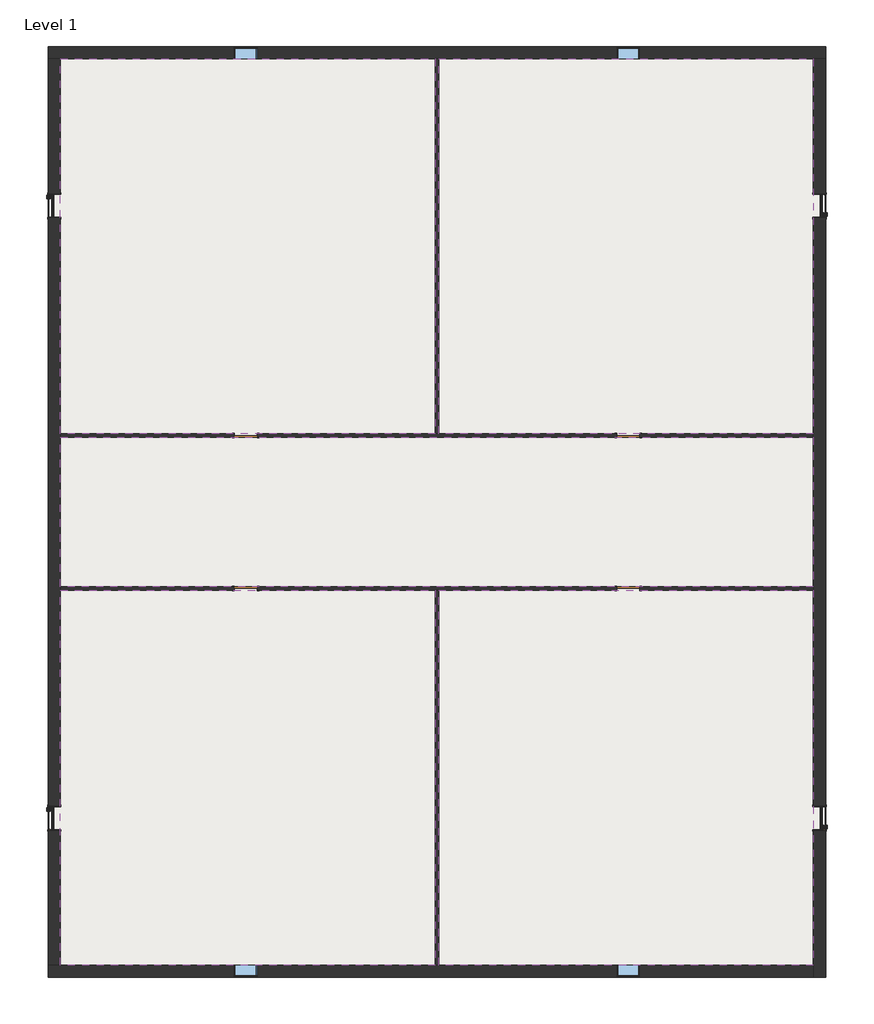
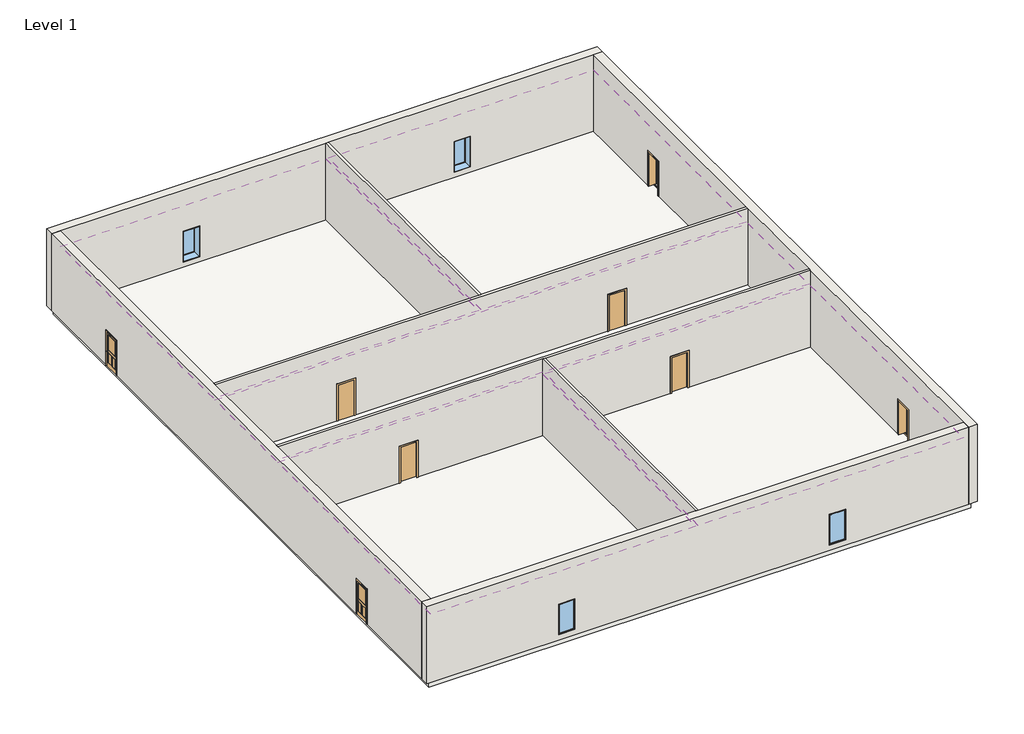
# One storey: 8 doors, 8 walls, 5 coverings, 4 windows, 1 slab.
"""IFC4 building model written with IfcOpenShell, lengths in millimetres."""

from ifc_helpers import new_model, si_unit, frame, origin, origin_with_axes, place, context, project, spatial, polyline, outline, extrude, faceted_brep, transform, mapped, element, save
from components import door_9a8c5ecc, door_c6edcd30, window_ebccf9a6

model = new_model("IFC4")

# Units and contexts
model_context = context("Model", 3, world=origin())
ifc_project = project(units=[si_unit("LENGTHUNIT", "METRE", prefix="MILLI")], contexts=[model_context])

# Site, building, storey
site = spatial("IfcSite", under=ifc_project)
building = spatial("IfcBuilding", under=site)
storey = spatial("IfcBuildingStorey", under=building, Name="Level 1", Elevation=0.0)

# Coverings
placement = place(None, origin())
element("IfcCovering", 1, ObjectType="GWB on Mtl. Stud", at=placement, inside=storey, context=model_context, shape_type="SweptSolid", body=[
    extrude(outline(polyline([(-19.9474435, 17225.7425957), (-19.9474435, 2303.2425957), (-14942.4474435, 2303.2425957), (-14942.4474435, 17225.7425957), (-19.9474435, 17225.7425957)])), frame((0.0, 0.0, 3657.6), z_axis=(0.0, 0.0, 1.0), x_axis=(1.0, 0.0, 0.0)), (0.0, 0.0, 1.0), 107.95),
])
element("IfcCovering", 2, ObjectType="GWB on Mtl. Stud", at=placement, inside=storey, context=model_context, shape_type="SweptSolid", body=[
    extrude(outline(polyline([(15042.2525565, 17225.7425957), (15042.2525565, 2303.2425957), (119.7525565, 2303.2425957), (119.7525565, 17225.7425957), (15042.2525565, 17225.7425957)])), frame((0.0, 0.0, 3657.6), z_axis=(0.0, 0.0, 1.0), x_axis=(1.0, 0.0, 0.0)), (0.0, 0.0, 1.0), 107.95),
])
element("IfcCovering", 3, ObjectType="GWB on Mtl. Stud", at=placement, inside=storey, context=model_context, shape_type="SweptSolid", body=[
    extrude(outline(polyline([(15042.2525565, 2163.5425957), (15042.2525565, -3792.7574043), (-14942.4474435, -3792.7574043), (-14942.4474435, 2163.5425957), (15042.2525565, 2163.5425957)])), frame((0.0, 0.0, 3657.6), z_axis=(0.0, 0.0, 1.0), x_axis=(1.0, 0.0, 0.0)), (0.0, 0.0, 1.0), 107.95),
])
element("IfcCovering", 4, ObjectType="GWB on Mtl. Stud", at=placement, inside=storey, context=model_context, shape_type="SweptSolid", body=[
    extrude(outline(polyline([(-19.9474435, -3932.4574043), (-19.9474435, -18854.9574043), (-14942.4474435, -18854.9574043), (-14942.4474435, -3932.4574043), (-19.9474435, -3932.4574043)])), frame((0.0, 0.0, 3657.6), z_axis=(0.0, 0.0, 1.0), x_axis=(1.0, 0.0, 0.0)), (0.0, 0.0, 1.0), 107.95),
])
element("IfcCovering", 5, ObjectType="GWB on Mtl. Stud", at=placement, inside=storey, context=model_context, shape_type="SweptSolid", body=[
    extrude(outline(polyline([(15042.2525565, -3932.4574043), (15042.2525565, -18854.9574043), (119.7525565, -18854.9574043), (119.7525565, -3932.4574043), (15042.2525565, -3932.4574043)])), frame((0.0, 0.0, 3657.6), z_axis=(0.0, 0.0, 1.0), x_axis=(1.0, 0.0, 0.0)), (0.0, 0.0, 1.0), 107.95),
])

# Doors
door_shape = door_9a8c5ecc(model_context)
element("IfcDoor", 6, ObjectType="Door-Exterior-Single-Entry-Half Flat Glass-Wood_Clad : 36\" x 80\"", at=placement, inside=storey, context=model_context, shape_type="MappedRepresentation", body=[
    mapped(door_shape, transform((15293.0775565, -13006.6074043, 0.0), x_axis=(0.0, -1.0, 0.0), y_axis=(1.0, 0.0, 0.0), z_axis=(0.0, 0.0, 1.0))),
])
element("IfcDoor", 7, ObjectType="Door-Exterior-Single-Entry-Half Flat Glass-Wood_Clad : 36\" x 80\"", at=placement, inside=storey, context=model_context, shape_type="MappedRepresentation", body=[
    mapped(door_shape, transform((-15193.2724435, -13006.6074043, 0.0), x_axis=(0.0, 1.0, 0.0), y_axis=(-1.0, 0.0, 0.0), z_axis=(0.0, 0.0, 1.0))),
])
element("IfcDoor", 8, ObjectType="Door-Exterior-Single-Entry-Half Flat Glass-Wood_Clad : 36\" x 80\"", at=placement, inside=storey, context=model_context, shape_type="MappedRepresentation", body=[
    mapped(door_shape, transform((15293.0775565, 11377.3925957, 0.0), x_axis=(0.0, -1.0, 0.0), y_axis=(1.0, 0.0, 0.0), z_axis=(0.0, 0.0, 1.0))),
])
element("IfcDoor", 9, ObjectType="Door-Exterior-Single-Entry-Half Flat Glass-Wood_Clad : 36\" x 80\"", at=placement, inside=storey, context=model_context, shape_type="MappedRepresentation", body=[
    mapped(door_shape, transform((-15193.2724435, 11377.3925957, 0.0), x_axis=(0.0, 1.0, 0.0), y_axis=(-1.0, 0.0, 0.0), z_axis=(0.0, 0.0, 1.0))),
])
door_2_shape = door_c6edcd30(model_context)
element("IfcDoor", 10, ObjectType="Single-Flush : 36\" x 84\"", at=placement, inside=storey, context=model_context, shape_type="MappedRepresentation", body=[
    mapped(door_2_shape, transform((-7570.0974435, 2233.3925957, 0.0), x_axis=(-1.0, 0.0, 0.0), y_axis=(0.0, -1.0, 0.0), z_axis=(0.0, 0.0, 1.0))),
])
element("IfcDoor", 11, ObjectType="Single-Flush : 36\" x 84\"", at=placement, inside=storey, context=model_context, shape_type="MappedRepresentation", body=[
    mapped(door_2_shape, transform((7669.9025565, 2233.3925957, 0.0), x_axis=(-1.0, 0.0, 0.0), y_axis=(0.0, -1.0, 0.0), z_axis=(0.0, 0.0, 1.0))),
])
element("IfcDoor", 12, ObjectType="Single-Flush : 36\" x 84\"", at=placement, inside=storey, context=model_context, shape_type="MappedRepresentation", body=[
    mapped(door_2_shape, transform((-7570.0974435, -3862.6074043, 0.0), x_axis=(1.0, 0.0, 0.0), y_axis=(0.0, 1.0, 0.0), z_axis=(0.0, 0.0, 1.0))),
])
element("IfcDoor", 13, ObjectType="Single-Flush : 36\" x 84\"", at=placement, inside=storey, context=model_context, shape_type="MappedRepresentation", body=[
    mapped(door_2_shape, transform((7669.9025565, -3862.6074043, 0.0), x_axis=(1.0, 0.0, 0.0), y_axis=(0.0, 1.0, 0.0), z_axis=(0.0, 0.0, 1.0))),
])

# Slab
element("IfcSlab", 14, ObjectType="Steel Bar Joist 14\" - VCT on Concrete", at=placement, inside=storey, context=model_context, shape_type="SweptSolid", body=[
    extrude(outline(polyline([(15293.0775565, 17476.5675957), (15293.0775565, -19105.7824043), (-15193.2724435, -19105.7824043), (-15193.2724435, 17476.5675957), (15293.0775565, 17476.5675957)])), frame((0.0, 0.0, -441.325), z_axis=(0.0, 0.0, 1.0), x_axis=(1.0, 0.0, 0.0)), (0.0, 0.0, 1.0), 441.325),
])

# Walls
element("IfcWall", 15, ObjectType="Exterior - Brick on CMU", at=placement, inside=storey, context=model_context, shape_type="Brep", body=[
    faceted_brep([(-15437.7474435, 17225.7425957, 0.0), (-14942.4474435, 17225.7425957, 0.0), (-19.9474435, 17225.7425957, 0.0), (119.7525565, 17225.7425957, 0.0), (15042.2525565, 17225.7425957, 0.0), (15537.5525565, 17225.7425957, 0.0), (15537.5525565, 17225.7425957, 4572.0), (15042.2525565, 17225.7425957, 4572.0), (119.7525565, 17225.7425957, 4572.0), (-19.9474435, 17225.7425957, 4572.0), (-14942.4474435, 17225.7425957, 4572.0), (-15437.7474435, 17225.7425957, 4572.0), (-7112.8974435, 17225.7425957, 2133.6), (-7112.8974435, 17225.7425957, 304.8), (-8027.2974435, 17225.7425957, 304.8), (-8027.2974435, 17225.7425957, 2133.6), (8127.1025565, 17225.7425957, 2133.6), (8127.1025565, 17225.7425957, 304.8), (7212.7025565, 17225.7425957, 304.8), (7212.7025565, 17225.7425957, 2133.6), (-15437.7474435, 17721.0425957, 0.0), (-15437.7474435, 17721.0425957, 4572.0), (15537.5525565, 17721.0425957, 4572.0), (15537.5525565, 17721.0425957, 0.0), (-7112.8974435, 17721.0425957, 2133.6), (-8027.2974435, 17721.0425957, 2133.6), (-8027.2974435, 17721.0425957, 304.8), (-7112.8974435, 17721.0425957, 304.8), (8127.1025565, 17721.0425957, 2133.6), (7212.7025565, 17721.0425957, 2133.6), (7212.7025565, 17721.0425957, 304.8), (8127.1025565, 17721.0425957, 304.8)], [[[0, 1, 2, 3, 4, 5, 6, 7, 8, 9, 10, 11], [12, 13, 14, 15], [16, 17, 18, 19]], [[20, 21, 22, 23], [24, 25, 26, 27], [28, 29, 30, 31]], [[5, 4, 3, 2, 1, 0, 20, 23]], [[6, 5, 23, 22]], [[0, 11, 21, 20]], [[13, 12, 24, 27]], [[14, 13, 27, 26]], [[15, 14, 26, 25]], [[12, 15, 25, 24]], [[17, 16, 28, 31]], [[18, 17, 31, 30]], [[19, 18, 30, 29]], [[16, 19, 29, 28]], [[11, 10, 9, 8, 7, 6, 22, 21]]]),
])
element("IfcWall", 16, ObjectType="Exterior - Brick on CMU", at=placement, inside=storey, context=model_context, shape_type="Brep", body=[
    faceted_brep([(15042.2525565, 17225.7425957, 4572.0), (15042.2525565, 17225.7425957, 0.0), (15042.2525565, 11859.9925957, 0.0), (15042.2525565, 11859.9925957, 2057.4), (15042.2525565, 10894.7925957, 2057.4), (15042.2525565, 10894.7925957, 0.0), (15042.2525565, 2303.2425957, 0.0), (15042.2525565, 2163.5425957, 0.0), (15042.2525565, -3792.7574043, 0.0), (15042.2525565, -3932.4574043, 0.0), (15042.2525565, -12524.0074043, 0.0), (15042.2525565, -12524.0074043, 2057.4), (15042.2525565, -13489.2074043, 2057.4), (15042.2525565, -13489.2074043, 0.0), (15042.2525565, -18854.9574043, 0.0), (15042.2525565, -19350.2574043, 0.0), (15042.2525565, -19350.2574043, 4572.0), (15042.2525565, -18854.9574043, 4572.0), (15042.2525565, -3932.4574043, 4572.0), (15042.2525565, -3792.7574043, 4572.0), (15042.2525565, 2163.5425957, 4572.0), (15042.2525565, 2303.2425957, 4572.0), (15537.5525565, 17225.7425957, 0.0), (15537.5525565, 17225.7425957, 4572.0), (15537.5525565, -19350.2574043, 4572.0), (15537.5525565, -19350.2574043, 0.0), (15537.5525565, -13489.2074043, 0.0), (15537.5525565, -13489.2074043, 2057.4), (15537.5525565, -12524.0074043, 2057.4), (15537.5525565, -12524.0074043, 0.0), (15537.5525565, 10894.7925957, 0.0), (15537.5525565, 10894.7925957, 2057.4), (15537.5525565, 11859.9925957, 2057.4), (15537.5525565, 11859.9925957, 0.0)], [[[0, 1, 2, 3, 4, 5, 6, 7, 8, 9, 10, 11, 12, 13, 14, 15, 16, 17, 18, 19, 20, 21]], [[22, 23, 24, 25, 26, 27, 28, 29, 30, 31, 32, 33]], [[1, 22, 33, 2]], [[25, 15, 14, 13, 26]], [[29, 10, 9, 8, 7, 6, 5, 30]], [[1, 0, 23, 22]], [[16, 15, 25, 24]], [[12, 27, 26, 13]], [[27, 12, 11, 28]], [[28, 11, 10, 29]], [[4, 31, 30, 5]], [[31, 4, 3, 32]], [[32, 3, 2, 33]], [[0, 21, 20, 19, 18, 17, 16, 24, 23]]]),
])
element("IfcWall", 17, ObjectType="Exterior - Brick on CMU", at=placement, inside=storey, context=model_context, shape_type="Brep", body=[
    faceted_brep([(15042.2525565, -18854.9574043, 0.0), (119.7525565, -18854.9574043, 0.0), (-19.9474435, -18854.9574043, 0.0), (-14942.4474435, -18854.9574043, 0.0), (-15437.7474435, -18854.9574043, 0.0), (-15437.7474435, -18854.9574043, 4572.0), (-14942.4474435, -18854.9574043, 4572.0), (-19.9474435, -18854.9574043, 4572.0), (119.7525565, -18854.9574043, 4572.0), (15042.2525565, -18854.9574043, 4572.0), (-8027.2974435, -18854.9574043, 2133.6), (-8027.2974435, -18854.9574043, 304.8), (-7112.8974435, -18854.9574043, 304.8), (-7112.8974435, -18854.9574043, 2133.6), (7212.7025565, -18854.9574043, 2133.6), (7212.7025565, -18854.9574043, 304.8), (8127.1025565, -18854.9574043, 304.8), (8127.1025565, -18854.9574043, 2133.6), (15042.2525565, -19350.2574043, 0.0), (15042.2525565, -19350.2574043, 4572.0), (-15437.7474435, -19350.2574043, 4572.0), (-15437.7474435, -19350.2574043, 0.0), (-8027.2974435, -19350.2574043, 2133.6), (-7112.8974435, -19350.2574043, 2133.6), (-7112.8974435, -19350.2574043, 304.8), (-8027.2974435, -19350.2574043, 304.8), (7212.7025565, -19350.2574043, 2133.6), (8127.1025565, -19350.2574043, 2133.6), (8127.1025565, -19350.2574043, 304.8), (7212.7025565, -19350.2574043, 304.8)], [[[0, 1, 2, 3, 4, 5, 6, 7, 8, 9], [10, 11, 12, 13], [14, 15, 16, 17]], [[18, 19, 20, 21], [22, 23, 24, 25], [26, 27, 28, 29]], [[4, 3, 2, 1, 0, 18, 21]], [[0, 9, 19, 18]], [[5, 4, 21, 20]], [[11, 10, 22, 25]], [[12, 11, 25, 24]], [[13, 12, 24, 23]], [[10, 13, 23, 22]], [[15, 14, 26, 29]], [[16, 15, 29, 28]], [[17, 16, 28, 27]], [[14, 17, 27, 26]], [[9, 8, 7, 6, 5, 20, 19]]]),
])
element("IfcWall", 18, ObjectType="Exterior - Brick on CMU", at=placement, inside=storey, context=model_context, shape_type="Brep", body=[
    faceted_brep([(-14942.4474435, 17225.7425957, 0.0), (-14942.4474435, 17225.7425957, 4572.0), (-14942.4474435, 2303.2425957, 4572.0), (-14942.4474435, 2163.5425957, 4572.0), (-14942.4474435, -3792.7574043, 4572.0), (-14942.4474435, -3932.4574043, 4572.0), (-14942.4474435, -18854.9574043, 4572.0), (-14942.4474435, -18854.9574043, 0.0), (-14942.4474435, -13489.2074043, 0.0), (-14942.4474435, -13489.2074043, 2057.4), (-14942.4474435, -12524.0074043, 2057.4), (-14942.4474435, -12524.0074043, 0.0), (-14942.4474435, -3932.4574043, 0.0), (-14942.4474435, -3792.7574043, 0.0), (-14942.4474435, 2163.5425957, 0.0), (-14942.4474435, 2303.2425957, 0.0), (-14942.4474435, 10894.7925957, 0.0), (-14942.4474435, 10894.7925957, 2057.4), (-14942.4474435, 11859.9925957, 2057.4), (-14942.4474435, 11859.9925957, 0.0), (-15437.7474435, 17225.7425957, 4572.0), (-15437.7474435, 17225.7425957, 0.0), (-15437.7474435, 11859.9925957, 0.0), (-15437.7474435, 11859.9925957, 2057.4), (-15437.7474435, 10894.7925957, 2057.4), (-15437.7474435, 10894.7925957, 0.0), (-15437.7474435, -12524.0074043, 0.0), (-15437.7474435, -12524.0074043, 2057.4), (-15437.7474435, -13489.2074043, 2057.4), (-15437.7474435, -13489.2074043, 0.0), (-15437.7474435, -18854.9574043, 0.0), (-15437.7474435, -18854.9574043, 4572.0)], [[[0, 1, 2, 3, 4, 5, 6, 7, 8, 9, 10, 11, 12, 13, 14, 15, 16, 17, 18, 19]], [[20, 21, 22, 23, 24, 25, 26, 27, 28, 29, 30, 31]], [[7, 30, 29, 8]], [[21, 0, 19, 22]], [[11, 26, 25, 16, 15, 14, 13, 12]], [[1, 0, 21, 20]], [[7, 6, 31, 30]], [[10, 27, 26, 11]], [[27, 10, 9, 28]], [[28, 9, 8, 29]], [[18, 23, 22, 19]], [[23, 18, 17, 24]], [[24, 17, 16, 25]], [[6, 5, 4, 3, 2, 1, 20, 31]]]),
])
element("IfcWall", 19, ObjectType="Interior - 5 1/2\" Partition (1-hr)", at=placement, inside=storey, context=model_context, shape_type="Brep", body=[
    faceted_brep([(8127.1025565, -3932.4574043, 2133.6), (8127.1025565, -3932.4574043, 0.0), (15042.2525565, -3932.4574043, 0.0), (15042.2525565, -3932.4574043, 4572.0), (119.7525565, -3932.4574043, 4572.0), (-19.9474435, -3932.4574043, 4572.0), (-14942.4474435, -3932.4574043, 4572.0), (-14942.4474435, -3932.4574043, 0.0), (-8027.2974435, -3932.4574043, 0.0), (-8027.2974435, -3932.4574043, 2133.6), (-7112.8974435, -3932.4574043, 2133.6), (-7112.8974435, -3932.4574043, 0.0), (-19.9474435, -3932.4574043, 0.0), (119.7525565, -3932.4574043, 0.0), (7212.7025565, -3932.4574043, 0.0), (7212.7025565, -3932.4574043, 2133.6), (15042.2525565, -3792.7574043, 0.0), (8127.1025565, -3792.7574043, 0.0), (8127.1025565, -3792.7574043, 2133.6), (7212.7025565, -3792.7574043, 2133.6), (7212.7025565, -3792.7574043, 0.0), (-7112.8974435, -3792.7574043, 0.0), (-7112.8974435, -3792.7574043, 2133.6), (-8027.2974435, -3792.7574043, 2133.6), (-8027.2974435, -3792.7574043, 0.0), (-14942.4474435, -3792.7574043, 0.0), (-14942.4474435, -3792.7574043, 4572.0), (15042.2525565, -3792.7574043, 4572.0)], [[[0, 1, 2, 3, 4, 5, 6, 7, 8, 9, 10, 11, 12, 13, 14, 15]], [[16, 17, 18, 19, 20, 21, 22, 23, 24, 25, 26, 27]], [[8, 7, 25, 24]], [[2, 1, 17, 16]], [[14, 13, 12, 11, 21, 20]], [[3, 2, 16, 27]], [[7, 6, 26, 25]], [[22, 21, 11, 10]], [[23, 22, 10, 9]], [[24, 23, 9, 8]], [[18, 17, 1, 0]], [[19, 18, 0, 15]], [[20, 19, 15, 14]], [[6, 5, 4, 3, 27, 26]]]),
])
element("IfcWall", 20, ObjectType="Interior - 5 1/2\" Partition (1-hr)", at=placement, inside=storey, context=model_context, shape_type="SweptSolid", body=[
    extrude(outline(polyline([(-19.9474435, -18854.9574043), (-19.9474435, -3932.4574043), (119.7525565, -3932.4574043), (119.7525565, -18854.9574043), (-19.9474435, -18854.9574043)])), origin_with_axes(), (0.0, 0.0, 1.0), 4572.0),
])
element("IfcWall", 21, ObjectType="Interior - 5 1/2\" Partition (1-hr)", at=placement, inside=storey, context=model_context, shape_type="Brep", body=[
    faceted_brep([(-7112.8974435, 2163.5425957, 0.0), (7212.7025565, 2163.5425957, 0.0), (7212.7025565, 2163.5425957, 2133.6), (8127.1025565, 2163.5425957, 2133.6), (8127.1025565, 2163.5425957, 0.0), (15042.2525565, 2163.5425957, 0.0), (15042.2525565, 2163.5425957, 4572.0), (-14942.4474435, 2163.5425957, 4572.0), (-14942.4474435, 2163.5425957, 0.0), (-8027.2974435, 2163.5425957, 0.0), (-8027.2974435, 2163.5425957, 2133.6), (-7112.8974435, 2163.5425957, 2133.6), (7212.7025565, 2303.2425957, 2133.6), (7212.7025565, 2303.2425957, 0.0), (119.7525565, 2303.2425957, 0.0), (-19.9474435, 2303.2425957, 0.0), (-7112.8974435, 2303.2425957, 0.0), (-7112.8974435, 2303.2425957, 2133.6), (-8027.2974435, 2303.2425957, 2133.6), (-8027.2974435, 2303.2425957, 0.0), (-14942.4474435, 2303.2425957, 0.0), (-14942.4474435, 2303.2425957, 4572.0), (-19.9474435, 2303.2425957, 4572.0), (119.7525565, 2303.2425957, 4572.0), (15042.2525565, 2303.2425957, 4572.0), (15042.2525565, 2303.2425957, 0.0), (8127.1025565, 2303.2425957, 0.0), (8127.1025565, 2303.2425957, 2133.6)], [[[0, 1, 2, 3, 4, 5, 6, 7, 8, 9, 10, 11]], [[12, 13, 14, 15, 16, 17, 18, 19, 20, 21, 22, 23, 24, 25, 26, 27]], [[20, 19, 9, 8]], [[26, 25, 5, 4]], [[16, 15, 14, 13, 1, 0]], [[6, 5, 25, 24]], [[8, 7, 21, 20]], [[10, 9, 19, 18]], [[11, 10, 18, 17]], [[0, 11, 17, 16]], [[2, 1, 13, 12]], [[3, 2, 12, 27]], [[4, 3, 27, 26]], [[7, 6, 24, 23, 22, 21]]]),
])
element("IfcWall", 22, ObjectType="Interior - 5 1/2\" Partition (1-hr)", at=placement, inside=storey, context=model_context, shape_type="SweptSolid", body=[
    extrude(outline(polyline([(119.7525565, 17225.7425957), (119.7525565, 2303.2425957), (-19.9474435, 2303.2425957), (-19.9474435, 17225.7425957), (119.7525565, 17225.7425957)])), origin_with_axes(), (0.0, 0.0, 1.0), 4572.0),
])

# Windows
window_shape = window_ebccf9a6(model_context)
element("IfcWindow", 23, ObjectType="Fixed : 36\" x 72\"", at=placement, inside=storey, context=model_context, shape_type="MappedRepresentation", body=[
    mapped(window_shape, transform((-7608.1974435, -19102.6074043, 0.0), x_axis=(-1.0, 0.0, 0.0), y_axis=(0.0, -1.0, 0.0), z_axis=(0.0, 0.0, 1.0))),
])
element("IfcWindow", 24, ObjectType="Fixed : 36\" x 72\"", at=placement, inside=storey, context=model_context, shape_type="MappedRepresentation", body=[
    mapped(window_shape, transform((7631.8025565, -19102.6074043, 0.0), x_axis=(-1.0, 0.0, 0.0), y_axis=(0.0, -1.0, 0.0), z_axis=(0.0, 0.0, 1.0))),
])
element("IfcWindow", 25, ObjectType="Fixed : 36\" x 72\"", at=placement, inside=storey, context=model_context, shape_type="MappedRepresentation", body=[
    mapped(window_shape, transform((-7531.9974435, 17473.3925957, 0.0), x_axis=(1.0, 0.0, 0.0), y_axis=(0.0, 1.0, 0.0), z_axis=(0.0, 0.0, 1.0))),
])
element("IfcWindow", 26, ObjectType="Fixed : 36\" x 72\"", at=placement, inside=storey, context=model_context, shape_type="MappedRepresentation", body=[
    mapped(window_shape, transform((7708.0025565, 17473.3925957, 0.0), x_axis=(1.0, 0.0, 0.0), y_axis=(0.0, 1.0, 0.0), z_axis=(0.0, 0.0, 1.0))),
])

save(model, "model.ifc")
